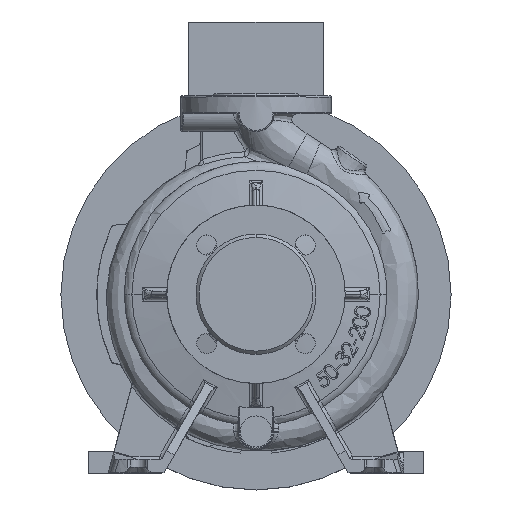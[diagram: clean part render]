
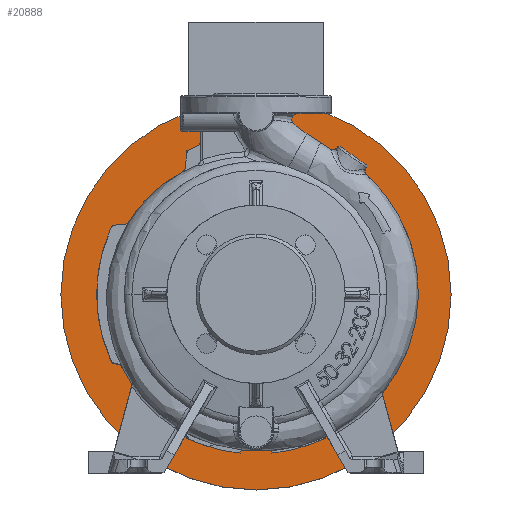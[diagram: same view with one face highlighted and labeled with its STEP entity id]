
A CAD part, top view. The second image highlights one B-rep face of the part: STEP entity #20888.
In plain terms, the highlighted planar face has unit normal (0, 0, 1).
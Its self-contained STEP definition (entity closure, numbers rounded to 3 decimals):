
#1433 = CARTESIAN_POINT ( 'NONE',  ( 175., 0., -221.3 ) ) ;
#5035 = AXIS2_PLACEMENT_3D ( 'NONE', #63893, #26685, #16482 ) ;
#9973 = ORIENTED_EDGE ( 'NONE', *, *, #45533, .F. ) ;
#13170 = EDGE_CURVE ( 'NONE', #21679, #66533, #58767, .T. ) ;
#13516 = CIRCLE ( 'NONE', #60350, 175. ) ;
#14506 = EDGE_LOOP ( 'NONE', ( #50818, #29518 ) ) ;
#15525 = CARTESIAN_POINT ( 'NONE',  ( 0., 105., -221.3 ) ) ;
#16482 = DIRECTION ( 'NONE',  ( 1., 0., 0. ) ) ;
#17403 = CARTESIAN_POINT ( 'NONE',  ( 105., 0., -221.3 ) ) ;
#20888 = ADVANCED_FACE ( 'NONE', ( #63227, #38322 ), #63376, .F. ) ;
#21679 = VERTEX_POINT ( 'NONE', #17403 ) ;
#22324 = CARTESIAN_POINT ( 'NONE',  ( 0., 0., -221.3 ) ) ;
#22542 = DIRECTION ( 'NONE',  ( 0., 0., 1. ) ) ;
#22873 = DIRECTION ( 'NONE',  ( 0., 0., 1. ) ) ;
#25236 = CARTESIAN_POINT ( 'NONE',  ( -175., 0., -221.3 ) ) ;
#26685 = DIRECTION ( 'NONE',  ( 0., 0., 1. ) ) ;
#28103 = ORIENTED_EDGE ( 'NONE', *, *, #13170, .F. ) ;
#29518 = ORIENTED_EDGE ( 'NONE', *, *, #30560, .T. ) ;
#29599 = DIRECTION ( 'NONE',  ( 0., 0., 1. ) ) ;
#29840 = DIRECTION ( 'NONE',  ( 1., 0., 0. ) ) ;
#30560 = EDGE_CURVE ( 'NONE', #56043, #64894, #13516, .T. ) ;
#31162 = EDGE_CURVE ( 'NONE', #64894, #56043, #52309, .T. ) ;
#32367 = DIRECTION ( 'NONE',  ( -1., 0., 0. ) ) ;
#34358 = AXIS2_PLACEMENT_3D ( 'NONE', #22324, #22542, #64628 ) ;
#38322 = FACE_OUTER_BOUND ( 'NONE', #14506, .T. ) ;
#38760 = CARTESIAN_POINT ( 'NONE',  ( 0., 0., -221.3 ) ) ;
#39269 = AXIS2_PLACEMENT_3D ( 'NONE', #38760, #22873, #65406 ) ;
#45533 = EDGE_CURVE ( 'NONE', #66533, #21679, #57406, .T. ) ;
#47281 = AXIS2_PLACEMENT_3D ( 'NONE', #15525, #53142, #32367 ) ;
#50818 = ORIENTED_EDGE ( 'NONE', *, *, #31162, .T. ) ;
#52309 = CIRCLE ( 'NONE', #5035, 175. ) ;
#53142 = DIRECTION ( 'NONE',  ( 0., 0., -1. ) ) ;
#53712 = CARTESIAN_POINT ( 'NONE',  ( -105., 0., -221.3 ) ) ;
#56043 = VERTEX_POINT ( 'NONE', #25236 ) ;
#57406 = CIRCLE ( 'NONE', #34358, 105. ) ;
#58767 = CIRCLE ( 'NONE', #39269, 105. ) ;
#60350 = AXIS2_PLACEMENT_3D ( 'NONE', #61255, #29599, #29840 ) ;
#61255 = CARTESIAN_POINT ( 'NONE',  ( 0., 0., -221.3 ) ) ;
#63227 = FACE_BOUND ( 'NONE', #67990, .T. ) ;
#63376 = PLANE ( 'NONE',  #47281 ) ;
#63893 = CARTESIAN_POINT ( 'NONE',  ( 0., 0., -221.3 ) ) ;
#64628 = DIRECTION ( 'NONE',  ( 1., 0., 0. ) ) ;
#64894 = VERTEX_POINT ( 'NONE', #1433 ) ;
#65406 = DIRECTION ( 'NONE',  ( 1., 0., 0. ) ) ;
#66533 = VERTEX_POINT ( 'NONE', #53712 ) ;
#67990 = EDGE_LOOP ( 'NONE', ( #28103, #9973 ) ) ;
